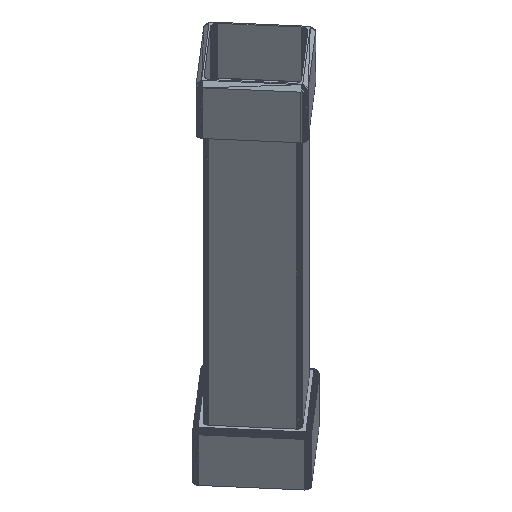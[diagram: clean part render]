
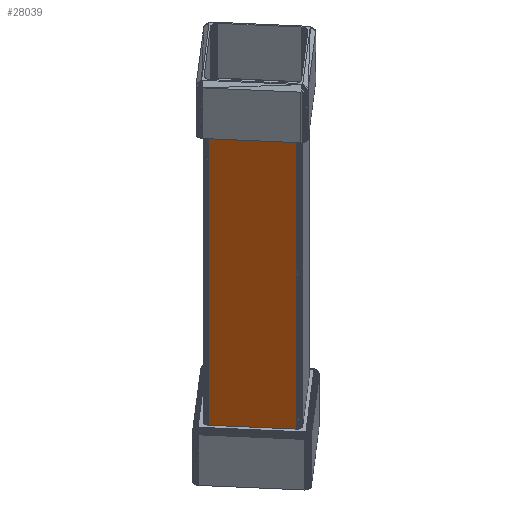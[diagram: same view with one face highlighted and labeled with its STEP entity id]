
A CAD part, isometric view. The second image highlights one B-rep face of the part: STEP entity #28039.
In plain terms, the highlighted planar face has unit normal (-0.758, -0.652, 0).
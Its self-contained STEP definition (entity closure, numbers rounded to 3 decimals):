
#9527 = PLANE('',#9528);
#9528 = AXIS2_PLACEMENT_3D('',#9529,#9530,#9531);
#9529 = CARTESIAN_POINT('',(30.886,29.3,
    25.4));
#9530 = DIRECTION('',(0.,-0.,1.));
#9531 = DIRECTION('',(1.,0.,0.));
#11170 = VERTEX_POINT('',#11171);
#11171 = CARTESIAN_POINT('',(-0.849,6.577,
    25.4));
#11185 = PLANE('',#11186);
#11186 = AXIS2_PLACEMENT_3D('',#11187,#11188,#11189);
#11187 = CARTESIAN_POINT('',(-0.849,6.577,
    159.385));
#11188 = DIRECTION('',(-0.705,-0.709,-0.));
#11189 = DIRECTION('',(-0.709,0.705,0.));
#11197 = EDGE_CURVE('',#11198,#11170,#11200,.T.);
#11198 = VERTEX_POINT('',#11199);
#11199 = CARTESIAN_POINT('',(-22.704,32.004,
    25.4));
#11200 = SURFACE_CURVE('',#11201,(#11205,#11212),.PCURVE_S1.);
#11201 = LINE('',#11202,#11203);
#11202 = CARTESIAN_POINT('',(-22.704,32.004,
    25.4));
#11203 = VECTOR('',#11204,1.);
#11204 = DIRECTION('',(0.652,-0.758,0.));
#11205 = PCURVE('',#9527,#11206);
#11206 = DEFINITIONAL_REPRESENTATION('',(#11207),#11211);
#11207 = LINE('',#11208,#11209);
#11208 = CARTESIAN_POINT('',(-53.59,2.704));
#11209 = VECTOR('',#11210,1.);
#11210 = DIRECTION('',(0.652,-0.758));
#11211 = ( GEOMETRIC_REPRESENTATION_CONTEXT(2) 
PARAMETRIC_REPRESENTATION_CONTEXT() REPRESENTATION_CONTEXT('2D SPACE',''
  ) );
#11212 = PCURVE('',#11213,#11218);
#11213 = PLANE('',#11214);
#11214 = AXIS2_PLACEMENT_3D('',#11215,#11216,#11217);
#11215 = CARTESIAN_POINT('',(-0.849,6.577,
    159.385));
#11216 = DIRECTION('',(-0.758,-0.652,-0.));
#11217 = DIRECTION('',(0.652,-0.758,0.));
#11218 = DEFINITIONAL_REPRESENTATION('',(#11219),#11223);
#11219 = LINE('',#11220,#11221);
#11220 = CARTESIAN_POINT('',(-33.528,-133.985));
#11221 = VECTOR('',#11222,1.);
#11222 = DIRECTION('',(1.,0.));
#11223 = ( GEOMETRIC_REPRESENTATION_CONTEXT(2) 
PARAMETRIC_REPRESENTATION_CONTEXT() REPRESENTATION_CONTEXT('2D SPACE',''
  ) );
#11241 = PLANE('',#11242);
#11242 = AXIS2_PLACEMENT_3D('',#11243,#11244,#11245);
#11243 = CARTESIAN_POINT('',(-22.892,32.261,
    159.385));
#11244 = DIRECTION('',(-0.807,-0.59,-0.));
#11245 = DIRECTION('',(0.59,-0.807,0.));
#12043 = PLANE('',#12044);
#12044 = AXIS2_PLACEMENT_3D('',#12045,#12046,#12047);
#12045 = CARTESIAN_POINT('',(30.544,27.986,
    159.385));
#12046 = DIRECTION('',(-0.,0.,-1.));
#12047 = DIRECTION('',(-1.,0.,0.));
#13961 = VERTEX_POINT('',#13962);
#13962 = CARTESIAN_POINT('',(-22.704,32.004,
    159.385));
#13983 = EDGE_CURVE('',#13961,#13984,#13986,.T.);
#13984 = VERTEX_POINT('',#13985);
#13985 = CARTESIAN_POINT('',(-0.849,6.577,
    159.385));
#13986 = SURFACE_CURVE('',#13987,(#13991,#13998),.PCURVE_S1.);
#13987 = LINE('',#13988,#13989);
#13988 = CARTESIAN_POINT('',(-22.704,32.004,
    159.385));
#13989 = VECTOR('',#13990,1.);
#13990 = DIRECTION('',(0.652,-0.758,0.));
#13991 = PCURVE('',#12043,#13992);
#13992 = DEFINITIONAL_REPRESENTATION('',(#13993),#13997);
#13993 = LINE('',#13994,#13995);
#13994 = CARTESIAN_POINT('',(53.248,4.018));
#13995 = VECTOR('',#13996,1.);
#13996 = DIRECTION('',(-0.652,-0.758));
#13997 = ( GEOMETRIC_REPRESENTATION_CONTEXT(2) 
PARAMETRIC_REPRESENTATION_CONTEXT() REPRESENTATION_CONTEXT('2D SPACE',''
  ) );
#13998 = PCURVE('',#11213,#13999);
#13999 = DEFINITIONAL_REPRESENTATION('',(#14000),#14004);
#14000 = LINE('',#14001,#14002);
#14001 = CARTESIAN_POINT('',(-33.528,0.));
#14002 = VECTOR('',#14003,1.);
#14003 = DIRECTION('',(1.,0.));
#14004 = ( GEOMETRIC_REPRESENTATION_CONTEXT(2) 
PARAMETRIC_REPRESENTATION_CONTEXT() REPRESENTATION_CONTEXT('2D SPACE',''
  ) );
#28018 = EDGE_CURVE('',#11198,#13961,#28019,.T.);
#28019 = SURFACE_CURVE('',#28020,(#28024,#28031),.PCURVE_S1.);
#28020 = LINE('',#28021,#28022);
#28021 = CARTESIAN_POINT('',(-22.704,32.004,
    25.4));
#28022 = VECTOR('',#28023,1.);
#28023 = DIRECTION('',(0.,0.,1.));
#28024 = PCURVE('',#11241,#28025);
#28025 = DEFINITIONAL_REPRESENTATION('',(#28026),#28030);
#28026 = LINE('',#28027,#28028);
#28027 = CARTESIAN_POINT('',(0.319,-133.985));
#28028 = VECTOR('',#28029,1.);
#28029 = DIRECTION('',(0.,1.));
#28030 = ( GEOMETRIC_REPRESENTATION_CONTEXT(2) 
PARAMETRIC_REPRESENTATION_CONTEXT() REPRESENTATION_CONTEXT('2D SPACE',''
  ) );
#28031 = PCURVE('',#11213,#28032);
#28032 = DEFINITIONAL_REPRESENTATION('',(#28033),#28037);
#28033 = LINE('',#28034,#28035);
#28034 = CARTESIAN_POINT('',(-33.528,-133.985));
#28035 = VECTOR('',#28036,1.);
#28036 = DIRECTION('',(0.,1.));
#28037 = ( GEOMETRIC_REPRESENTATION_CONTEXT(2) 
PARAMETRIC_REPRESENTATION_CONTEXT() REPRESENTATION_CONTEXT('2D SPACE',''
  ) );
#28039 = ADVANCED_FACE('',(#28040),#11213,.T.);
#28040 = FACE_BOUND('',#28041,.T.);
#28041 = EDGE_LOOP('',(#28042,#28043,#28044,#28045));
#28042 = ORIENTED_EDGE('',*,*,#13983,.F.);
#28043 = ORIENTED_EDGE('',*,*,#28018,.F.);
#28044 = ORIENTED_EDGE('',*,*,#11197,.T.);
#28045 = ORIENTED_EDGE('',*,*,#28046,.T.);
#28046 = EDGE_CURVE('',#11170,#13984,#28047,.T.);
#28047 = SURFACE_CURVE('',#28048,(#28052,#28059),.PCURVE_S1.);
#28048 = LINE('',#28049,#28050);
#28049 = CARTESIAN_POINT('',(-0.849,6.577,
    25.4));
#28050 = VECTOR('',#28051,1.);
#28051 = DIRECTION('',(0.,0.,1.));
#28052 = PCURVE('',#11213,#28053);
#28053 = DEFINITIONAL_REPRESENTATION('',(#28054),#28058);
#28054 = LINE('',#28055,#28056);
#28055 = CARTESIAN_POINT('',(0.,-133.985));
#28056 = VECTOR('',#28057,1.);
#28057 = DIRECTION('',(0.,1.));
#28058 = ( GEOMETRIC_REPRESENTATION_CONTEXT(2) 
PARAMETRIC_REPRESENTATION_CONTEXT() REPRESENTATION_CONTEXT('2D SPACE',''
  ) );
#28059 = PCURVE('',#11185,#28060);
#28060 = DEFINITIONAL_REPRESENTATION('',(#28061),#28065);
#28061 = LINE('',#28062,#28063);
#28062 = CARTESIAN_POINT('',(0.,133.985));
#28063 = VECTOR('',#28064,1.);
#28064 = DIRECTION('',(0.,-1.));
#28065 = ( GEOMETRIC_REPRESENTATION_CONTEXT(2) 
PARAMETRIC_REPRESENTATION_CONTEXT() REPRESENTATION_CONTEXT('2D SPACE',''
  ) );
